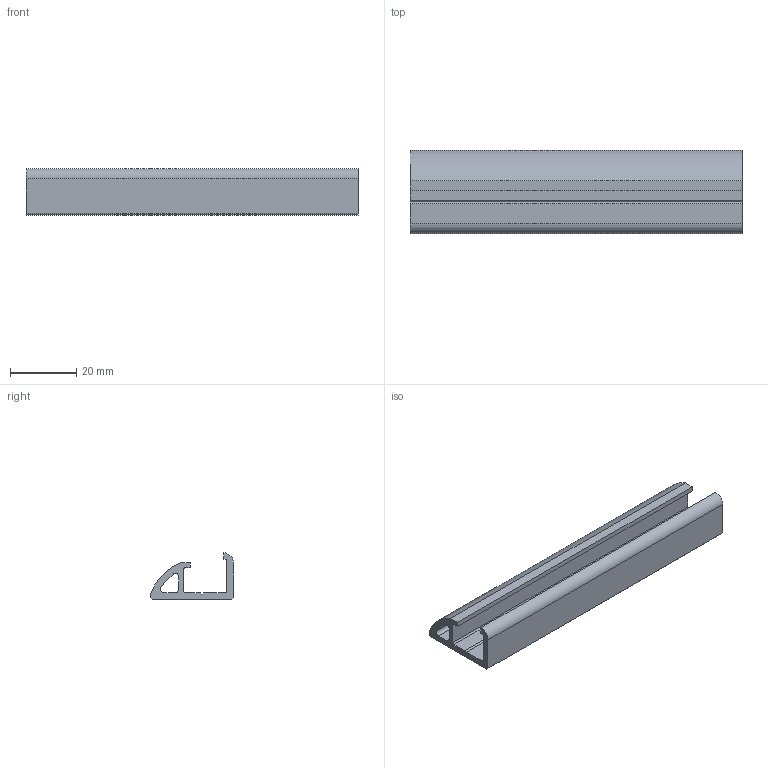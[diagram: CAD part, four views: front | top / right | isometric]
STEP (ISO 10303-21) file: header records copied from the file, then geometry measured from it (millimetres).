
FILE_DESCRIPTION (( 'STEP AP203' ), '1' );
FILE_NAME ('B25024A.STEP', '2017-03-22T11:28:24', ( 'Localadmin' ), ( 'Microsoft' ), 'SwSTEP 2.0', 'SolidWorks 2016', '' );
FILE_SCHEMA (( 'CONFIG_CONTROL_DESIGN' ));
Length unit declared in the file: millimetre
Products named in the file (1): B25024A
Bounding box: 100 x 25 x 14 mm (x, y, z)
Volume: 11333.6 mm3; surface area: 11557.8 mm2
Topology: 1 solids, 1 shells, 31 faces, 87 edges, 58 vertices
Faces by surface type: plane 20, cylinder 11
Entity records: 1084 total; most frequent: CARTESIAN_POINT 177, ORIENTED_EDGE 174, DIRECTION 173, EDGE_CURVE 87, VECTOR 65, LINE 65, VERTEX_POINT 58, AXIS2_PLACEMENT_3D 54
